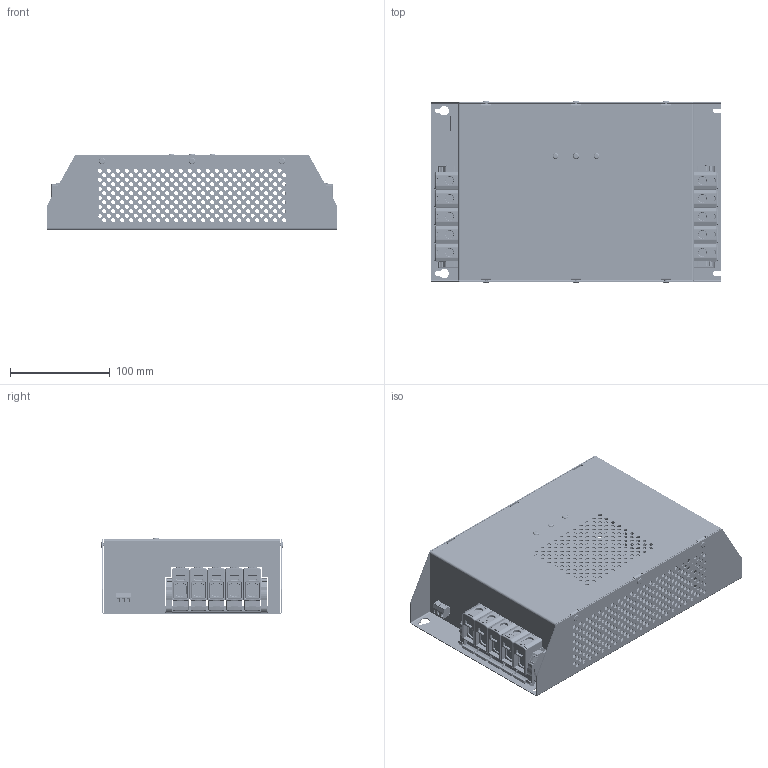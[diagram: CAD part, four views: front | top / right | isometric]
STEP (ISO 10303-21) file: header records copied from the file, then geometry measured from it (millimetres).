
FILE_DESCRIPTION(/* description */ (''),/* implementation_level */ '2;1');
FILE_NAME(/* name */ 'K:\PROJEKTY ROZPRACOVANÉ\MODELY DO KATALOGU\HSAF\3D - STEP\HSAF3_120 S.stp',/* time_stamp */ '2017-09-27T08:45:51+02:00',/* author */ ('admin'),/* organization */ (''),/* preprocessor_version */ 'ST-DEVELOPER v16.1',/* originating_system */ 'Autodesk Inventor 2016',/* authorisation */ '');
FILE_SCHEMA (('AUTOMOTIVE_DESIGN { 1 0 10303 214 3 1 1 }'));
Products named in the file (14): ZÁKLADNA 3F 80, 120, 150; VÍKO 3F 80, 120, 150; DIN LIŠTA 103; 15EDGK - 5.08 3P; ŠROUB M1.6x2.5 5.08, 3.81; 15EDGK - 5.08 3P_1; 15EDGRC - 5.08 3P; 249-116_HI; KRYTKA NA LED; OTL1x50_BLUE; OTL1x50_GREY; OTL1x50_YELLOW-GREEN; DIN 7337 - A3 x 6 x 2,5; HSAF3_80 S, 120 S, 150 S
Assembly tree (33 placements, depth 3):
  HSAF3_80 S, 120 S, 150 S
    ZÁKLADNA 3F 80, 120, 150
    VÍKO 3F 80, 120, 150
    DIN LIŠTA 103  x2
    15EDGK - 5.08 3P_1
      15EDGK - 5.08 3P
      ŠROUB M1.6x2.5 5.08, 3.81  x3
    15EDGRC - 5.08 3P
    249-116_HI  x4
    KRYTKA NA LED  x3
    OTL1x50_BLUE  x2
    OTL1x50_GREY  x6
    OTL1x50_YELLOW-GREEN  x2
    DIN 7337 - A3 x 6 x 2,5  x6
Bounding box: 290 x 181.6 x 76.3 mm (x, y, z)
Volume: 449918.1 mm3; surface area: 426445.2 mm2
Topology: 32 solids, 36 shells, 17868 faces, 48751 edges, 30959 vertices
Faces by surface type: plane 13017, cylinder 3392, bspline 946, sphere 240, cone 192, torus 81
Full cylindrical faces by diameter (mm): 0.8 x3, 0.9 x3, 1 x3, 1.171 x3, 1.6 x3, 1.8 x3, 1.9 x3, 2 x3, 2.5 x3, 3 x6, 3.2 x12, 4 x706, 4.2 x4, 4.22 x5, 5 x3, 6.5 x6, 7.977 x20
Entity records: 202498 total; most frequent: CARTESIAN_POINT 44120, ORIENTED_EDGE 31994, DIRECTION 30431, EDGE_CURVE 15997, LINE 12485, VECTOR 12485, VERTEX_POINT 10799, AXIS2_PLACEMENT_3D 8973
